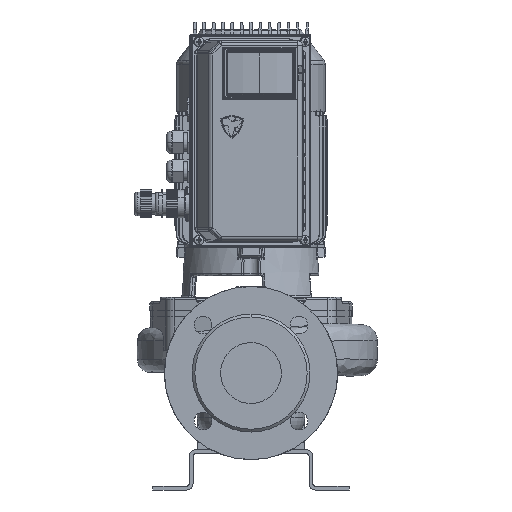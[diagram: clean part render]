
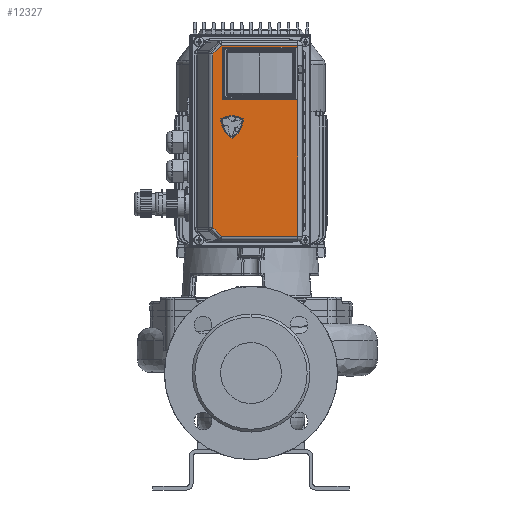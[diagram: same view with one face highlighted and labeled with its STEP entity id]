
A CAD part, front view. The second image highlights one B-rep face of the part: STEP entity #12327.
In plain terms, the highlighted planar face has unit normal (0, -1, 0) as drawn and (0, 0.276, -0.961) by its records, which use the part's own axes.
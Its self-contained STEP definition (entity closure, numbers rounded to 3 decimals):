
#12327=ADVANCED_FACE('',(#24214,#24215),#24216,.F.);
#24214=FACE_BOUND('',#43914,.T.);
#24215=FACE_OUTER_BOUND('',#43915,.T.);
#24216=PLANE('',#43916);
#43914=EDGE_LOOP('',(#70542,#70543,#70544,#70545));
#43915=EDGE_LOOP('',(#70546,#70547,#70548,#70549,#70550,#70551));
#43916=AXIS2_PLACEMENT_3D('',#70552,#70553,#70554);
#70542=ORIENTED_EDGE('',*,*,#94824,.T.);
#70543=ORIENTED_EDGE('',*,*,#94827,.T.);
#70544=ORIENTED_EDGE('',*,*,#94817,.T.);
#70545=ORIENTED_EDGE('',*,*,#94821,.T.);
#70546=ORIENTED_EDGE('',*,*,#93913,.F.);
#70547=ORIENTED_EDGE('',*,*,#95665,.F.);
#70548=ORIENTED_EDGE('',*,*,#95671,.F.);
#70549=ORIENTED_EDGE('',*,*,#94390,.T.);
#70550=ORIENTED_EDGE('',*,*,#95203,.T.);
#70551=ORIENTED_EDGE('',*,*,#95669,.T.);
#70552=CARTESIAN_POINT('',(0.,13.785,32.694));
#70553=DIRECTION('',(0.0,-0.276,0.961));
#70554=DIRECTION('',(-0.0,0.961,0.276));
#93913=EDGE_CURVE('',#117715,#117717,#117718,.T.);
#94390=EDGE_CURVE('',#118532,#118530,#118533,.T.);
#94817=EDGE_CURVE('',#119253,#119254,#119255,.T.);
#94821=EDGE_CURVE('',#119254,#119259,#119260,.T.);
#94824=EDGE_CURVE('',#119259,#119263,#119264,.T.);
#94827=EDGE_CURVE('',#119263,#119253,#119267,.T.);
#95203=EDGE_CURVE('',#118530,#119696,#119698,.T.);
#95665=EDGE_CURVE('',#120218,#117715,#120220,.T.);
#95669=EDGE_CURVE('',#119696,#117717,#120224,.T.);
#95671=EDGE_CURVE('',#118532,#120218,#120226,.T.);
#117715=VERTEX_POINT('',#135536);
#117717=VERTEX_POINT('',#135538);
#117718=LINE('',#135539,#135540);
#118530=VERTEX_POINT('',#136479);
#118532=VERTEX_POINT('',#136481);
#118533=LINE('',#136482,#136483);
#119253=VERTEX_POINT('',#137342);
#119254=VERTEX_POINT('',#137343);
#119255=LINE('',#137344,#137345);
#119259=VERTEX_POINT('',#137351);
#119260=LINE('',#137352,#137353);
#119263=VERTEX_POINT('',#137357);
#119264=LINE('',#137358,#137359);
#119267=LINE('',#137363,#137364);
#119696=VERTEX_POINT('',#137844);
#119698=LINE('',#137846,#137847);
#120218=VERTEX_POINT('',#138465);
#120220=LINE('',#138467,#138468);
#120224=LINE('',#138472,#138473);
#120226=LINE('',#138475,#138476);
#135536=CARTESIAN_POINT('',(-102.0,48.307,42.593));
#135538=CARTESIAN_POINT('',(-102.0,-29.808,20.194));
#135539=CARTESIAN_POINT('',(-102.0,-21.808,22.488));
#135540=VECTOR('',#152618,1.);
#136479=CARTESIAN_POINT('',(102.0,48.307,42.593));
#136481=CARTESIAN_POINT('',(92.929,57.378,45.194));
#136482=CARTESIAN_POINT('',(81.022,69.285,48.608));
#136483=VECTOR('',#153508,1.);
#137342=CARTESIAN_POINT('',(-50.,42.286,40.866));
#137343=CARTESIAN_POINT('',(-95.,42.286,40.866));
#137344=CARTESIAN_POINT('',(-36.25,42.286,40.866));
#137345=VECTOR('',#154296,1.);
#137351=CARTESIAN_POINT('',(-95.,-24.041,21.847));
#137352=CARTESIAN_POINT('',(-95.,11.454,32.025));
#137353=VECTOR('',#154299,1.);
#137357=CARTESIAN_POINT('',(-50.,-24.041,21.847));
#137358=CARTESIAN_POINT('',(-36.25,-24.041,21.847));
#137359=VECTOR('',#154301,1.);
#137363=CARTESIAN_POINT('',(-50.,11.454,32.025));
#137364=VECTOR('',#154303,1.);
#137844=CARTESIAN_POINT('',(102.0,-29.808,20.194));
#137846=CARTESIAN_POINT('',(102.0,-21.808,22.488));
#137847=VECTOR('',#154889,1.0);
#138465=CARTESIAN_POINT('',(-92.929,57.378,45.194));
#138467=CARTESIAN_POINT('',(-81.022,69.285,48.608));
#138468=VECTOR('',#155564,1.);
#138472=CARTESIAN_POINT('',(0.,-29.808,20.194));
#138473=VECTOR('',#155568,1.0);
#138475=CARTESIAN_POINT('',(0.,57.378,45.194));
#138476=VECTOR('',#155569,1.0);
#152618=DIRECTION('',(0.,-0.961,-0.276));
#153508=DIRECTION('',(0.693,-0.693,-0.199));
#154296=DIRECTION('',(-1.0,0.,0.));
#154299=DIRECTION('',(-0.0,-0.961,-0.276));
#154301=DIRECTION('',(1.0,0.,0.));
#154303=DIRECTION('',(-0.0,0.961,0.276));
#154889=DIRECTION('',(0.,-0.961,-0.276));
#155564=DIRECTION('',(-0.693,-0.693,-0.199));
#155568=DIRECTION('',(-1.0,0.0,0.0));
#155569=DIRECTION('',(-1.0,0.0,0.0));
